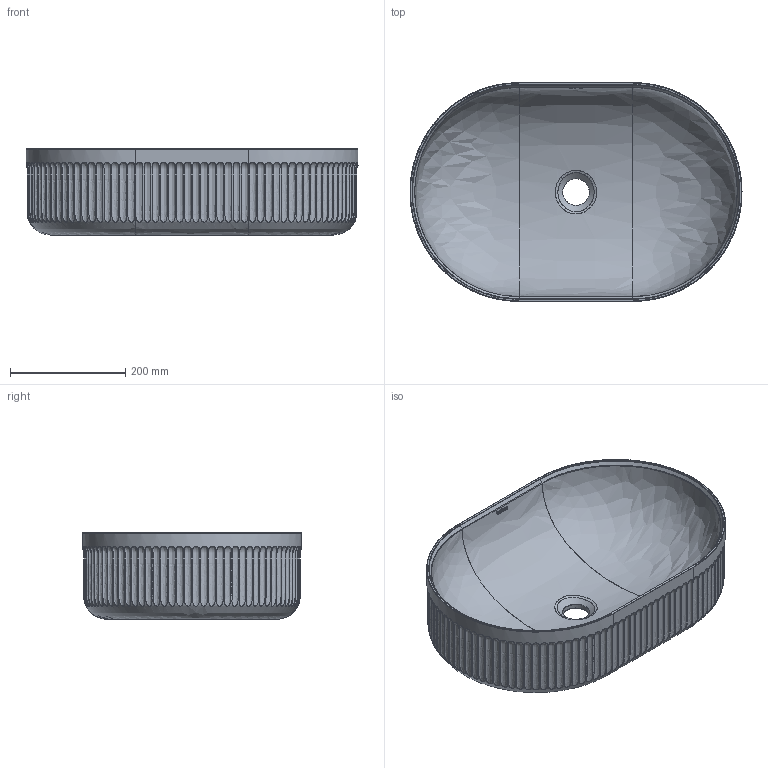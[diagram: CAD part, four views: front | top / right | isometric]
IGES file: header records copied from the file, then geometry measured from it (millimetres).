
Global section: file name: C:\Users\User\Desktop\00604_Striae Oval.igs; native system: Rhinoceros ( May  7 2021 ); preprocessor: Trout Lake IGES 012 May  7 2021; date: 231113.153042; units: millimetre
Bounding box: 576.89 x 380 x 150 mm (x, y, z)
Surface area: 760233.9 mm2 (no closed solid volume)
Topology: 0 solids, 0 shells, 496 faces, 11405 edges, 11396 vertices
Faces by surface type: bspline 496
